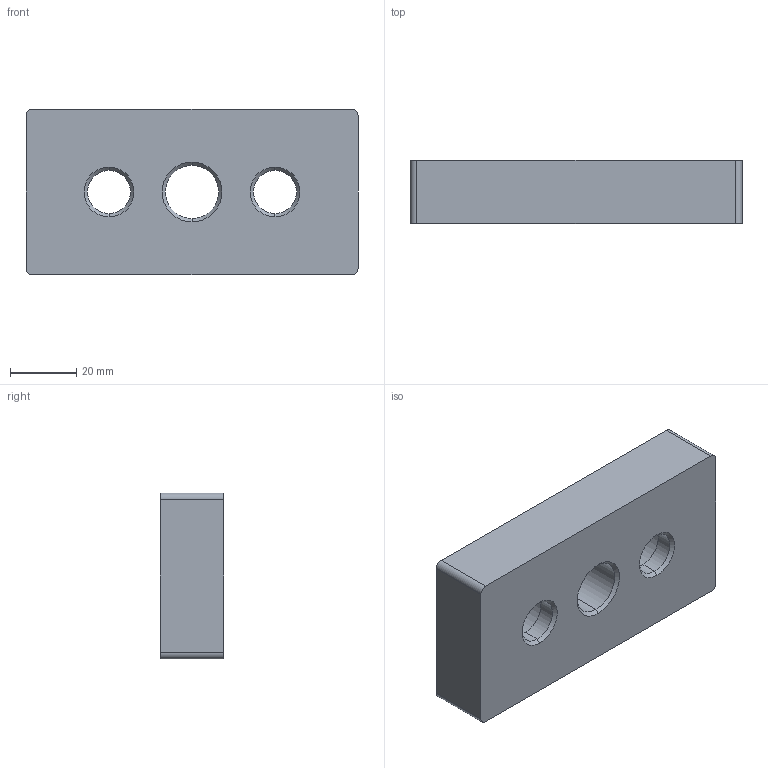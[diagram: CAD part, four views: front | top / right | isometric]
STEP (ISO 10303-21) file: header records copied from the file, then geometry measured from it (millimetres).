
FILE_DESCRIPTION (( 'STEP AP203' ), '1' );
FILE_NAME ('7033.STEP', '2017-04-20T06:22:43', ( '' ), ( '' ), 'SwSTEP 2.0', 'SolidWorks 2014', '' );
FILE_SCHEMA (( 'CONFIG_CONTROL_DESIGN' ));
Length unit declared in the file: millimetre
Products named in the file (1): 7033
Bounding box: 100 x 19 x 50 mm (x, y, z)
Volume: 82751.7 mm3; surface area: 17445.1 mm2
Topology: 1 solids, 1 shells, 34 faces, 78 edges, 48 vertices
Faces by surface type: cylinder 14, cone 12, plane 8
Entity records: 1055 total; most frequent: DIRECTION 188, CARTESIAN_POINT 161, ORIENTED_EDGE 156, EDGE_CURVE 78, AXIS2_PLACEMENT_3D 75, VERTEX_POINT 48, EDGE_LOOP 42, CIRCLE 40
